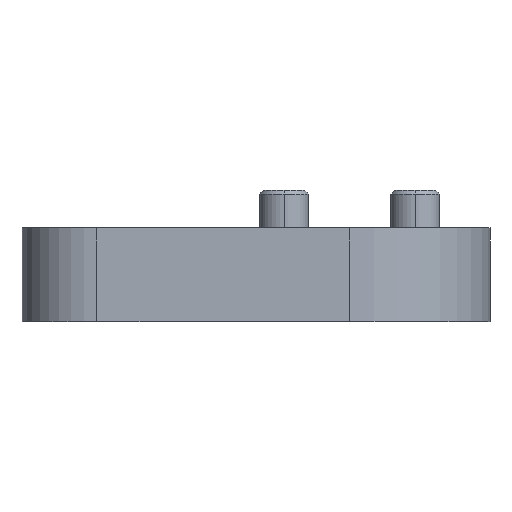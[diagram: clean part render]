
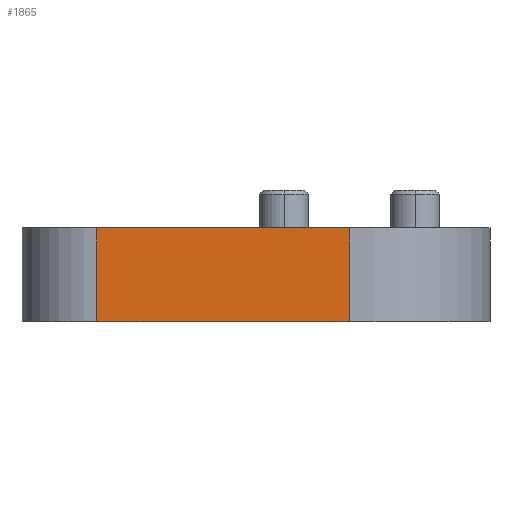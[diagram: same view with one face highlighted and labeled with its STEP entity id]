
A CAD part, left-side view. The second image highlights one B-rep face of the part: STEP entity #1865.
In plain terms, the highlighted planar face has unit normal (-1, 0, 0).
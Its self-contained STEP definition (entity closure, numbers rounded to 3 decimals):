
#1847=AXIS2_PLACEMENT_3D('Plane Axis2P3D',#1844,#1845,#1846) ;
#373=CARTESIAN_POINT('Vertex',(-9.5,1.,5.)) ;
#376=CARTESIAN_POINT('Line Origine',(-9.5,-5.75,5.)) ;
#380=CARTESIAN_POINT('Vertex',(-9.5,-12.5,5.)) ;
#846=CARTESIAN_POINT('Vertex',(-9.5,-12.5,0.)) ;
#849=CARTESIAN_POINT('Line Origine',(-9.5,-5.75,0.)) ;
#853=CARTESIAN_POINT('Vertex',(-9.5,1.,0.)) ;
#1844=CARTESIAN_POINT('Axis2P3D Location',(-9.5,9.,0.)) ;
#1849=CARTESIAN_POINT('Line Origine',(-9.5,-12.5,2.5)) ;
#1854=CARTESIAN_POINT('Line Origine',(-9.5,1.,2.5)) ;
#377=DIRECTION('Vector Direction',(0.,-1.,0.)) ;
#850=DIRECTION('Vector Direction',(0.,-1.,0.)) ;
#1845=DIRECTION('Axis2P3D Direction',(-1.,0.,0.)) ;
#1846=DIRECTION('Axis2P3D XDirection',(0.,-1.,0.)) ;
#1850=DIRECTION('Vector Direction',(0.,0.,1.)) ;
#1855=DIRECTION('Vector Direction',(0.,0.,-1.)) ;
#378=VECTOR('Line Direction',#377,1.) ;
#851=VECTOR('Line Direction',#850,1.) ;
#1851=VECTOR('Line Direction',#1850,1.) ;
#1856=VECTOR('Line Direction',#1855,1.) ;
#1860=ORIENTED_EDGE('',*,*,#1853,.T.) ;
#1861=ORIENTED_EDGE('',*,*,#382,.F.) ;
#1862=ORIENTED_EDGE('',*,*,#1858,.T.) ;
#1863=ORIENTED_EDGE('',*,*,#855,.T.) ;
#1865=ADVANCED_FACE('\X2\96F64EF651E04F554F53\X0\',(#1864),#1848,.T.) ;
#382=EDGE_CURVE('',#374,#381,#379,.T.) ;
#855=EDGE_CURVE('',#854,#847,#852,.T.) ;
#1853=EDGE_CURVE('',#847,#381,#1852,.T.) ;
#1858=EDGE_CURVE('',#374,#854,#1857,.T.) ;
#1859=EDGE_LOOP('',(#1860,#1861,#1862,#1863)) ;
#1864=FACE_OUTER_BOUND('',#1859,.T.) ;
#379=LINE('Line',#376,#378) ;
#852=LINE('Line',#849,#851) ;
#1852=LINE('Line',#1849,#1851) ;
#1857=LINE('Line',#1854,#1856) ;
#1848=PLANE('Plane',#1847) ;
#374=VERTEX_POINT('',#373) ;
#381=VERTEX_POINT('',#380) ;
#847=VERTEX_POINT('',#846) ;
#854=VERTEX_POINT('',#853) ;
